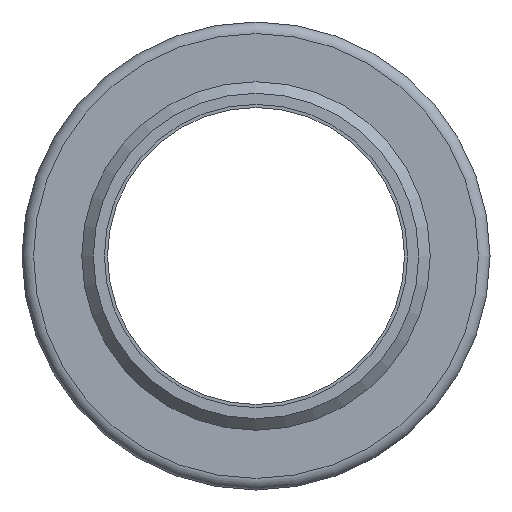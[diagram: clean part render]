
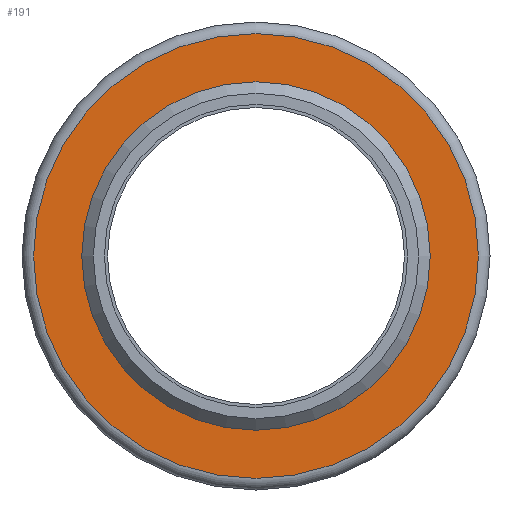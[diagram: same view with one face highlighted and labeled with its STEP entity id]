
A CAD part, front view. The second image highlights one B-rep face of the part: STEP entity #191.
In plain terms, the highlighted planar face has unit normal (0, -1, 0).
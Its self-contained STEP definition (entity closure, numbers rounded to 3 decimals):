
#38=PLANE('',#247);
#61=ORIENTED_EDGE('',*,*,#82,.T.);
#62=ORIENTED_EDGE('',*,*,#81,.F.);
#81=EDGE_CURVE('',#96,#96,#111,.T.);
#82=EDGE_CURVE('',#97,#97,#112,.T.);
#96=VERTEX_POINT('',#358);
#97=VERTEX_POINT('',#361);
#111=CIRCLE('',#246,30.15);
#112=CIRCLE('',#248,38.5);
#136=EDGE_LOOP('',(#61));
#137=EDGE_LOOP('',(#62));
#166=FACE_BOUND('',#136,.T.);
#167=FACE_BOUND('',#137,.T.);
#191=ADVANCED_FACE('',(#166,#167),#38,.T.);
#246=AXIS2_PLACEMENT_3D('',#357,#304,#305);
#247=AXIS2_PLACEMENT_3D('',#359,#306,#307);
#248=AXIS2_PLACEMENT_3D('',#360,#308,#309);
#304=DIRECTION('',(0.,-1.,0.));
#305=DIRECTION('',(0.,0.,-1.));
#306=DIRECTION('',(0.,-1.,0.));
#307=DIRECTION('',(0.,0.,-1.));
#308=DIRECTION('',(0.,-1.,0.));
#309=DIRECTION('',(0.,0.,-1.));
#357=CARTESIAN_POINT('',(0.,0.,0.));
#358=CARTESIAN_POINT('',(0.,0.,-30.15));
#359=CARTESIAN_POINT('',(0.,0.,30.15));
#360=CARTESIAN_POINT('',(0.,0.,0.));
#361=CARTESIAN_POINT('',(0.,0.,-38.5));
